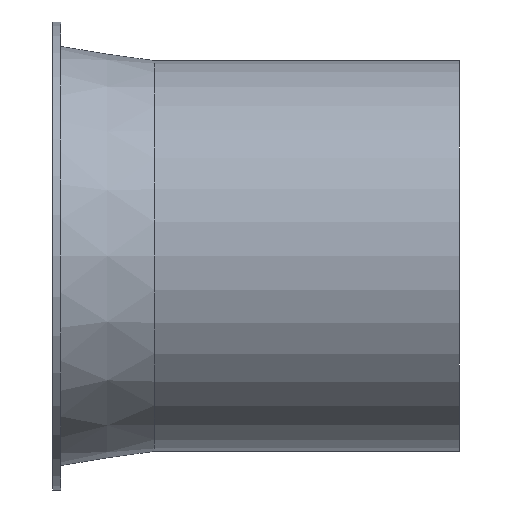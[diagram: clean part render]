
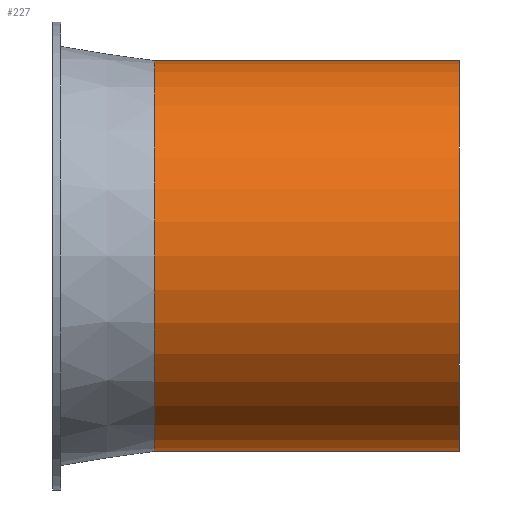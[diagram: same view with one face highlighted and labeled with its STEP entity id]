
A CAD part, front view. The second image highlights one B-rep face of the part: STEP entity #227.
In plain terms, the highlighted cylindrical face has radius 48 mm (diameter 96 mm), a full revolution.
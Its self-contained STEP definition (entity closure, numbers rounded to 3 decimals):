
#132=CARTESIAN_POINT('',(-2.081,46.334,0.0));
#133=VERTEX_POINT('',#132);
#134=CARTESIAN_POINT('',(-2.081,94.334,0.0));
#135=DIRECTION('',(-1.0,0.0,0.0));
#136=DIRECTION('',(0.0,-1.0,0.0));
#137=AXIS2_PLACEMENT_3D('',#134,#135,#136);
#138=CIRCLE('',#137,48.);
#139=EDGE_CURVE('',#133,#133,#138,.T.);
#201=CARTESIAN_POINT('',(72.919,46.334,0.0));
#202=VERTEX_POINT('',#201);
#203=CARTESIAN_POINT('',(72.919,94.334,0.0));
#204=DIRECTION('',(-1.0,0.0,0.0));
#205=DIRECTION('',(0.0,-1.0,0.0));
#206=AXIS2_PLACEMENT_3D('',#203,#204,#205);
#207=CIRCLE('',#206,48.0);
#208=EDGE_CURVE('',#202,#202,#207,.T.);
#216=CARTESIAN_POINT('',(35.419,94.334,0.0));
#217=DIRECTION('',(-1.0,0.,0.0));
#218=DIRECTION('',(0.0,-1.0,0.0));
#219=AXIS2_PLACEMENT_3D('',#216,#217,#218);
#220=CYLINDRICAL_SURFACE('',#219,48.);
#221=ORIENTED_EDGE('',*,*,#139,.F.);
#222=EDGE_LOOP('',(#221));
#223=FACE_OUTER_BOUND('',#222,.T.);
#224=ORIENTED_EDGE('',*,*,#208,.T.);
#225=EDGE_LOOP('',(#224));
#226=FACE_BOUND('',#225,.T.);
#227=ADVANCED_FACE('',(#223,#226),#220,.T.);
